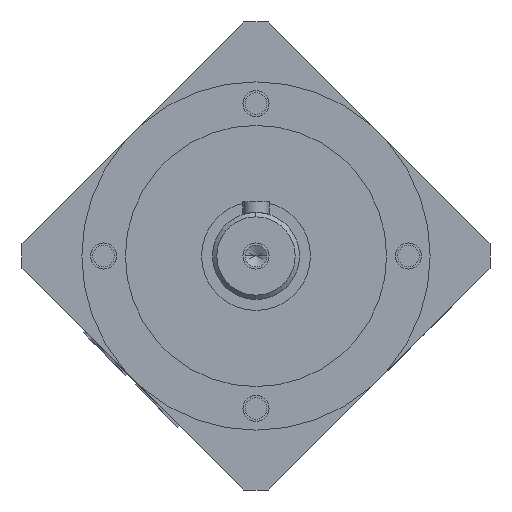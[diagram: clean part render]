
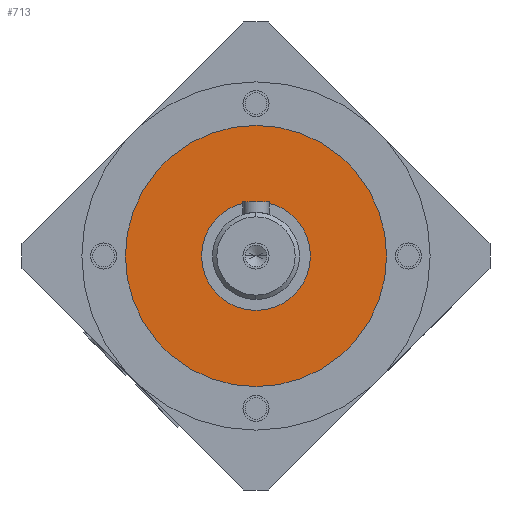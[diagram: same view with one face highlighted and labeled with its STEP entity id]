
A CAD part, front view. The second image highlights one B-rep face of the part: STEP entity #713.
In plain terms, the highlighted planar face has unit normal (0, -1, 0).
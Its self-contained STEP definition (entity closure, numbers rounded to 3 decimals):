
#151=CARTESIAN_POINT('',(0.,-3.,0.));
#152=DIRECTION('',(0.,1.,0.));
#153=DIRECTION('',(0.,0.,-1.));
#154=AXIS2_PLACEMENT_3D('',#151,#152,#153);
#160=CARTESIAN_POINT('',(0.,-3.,0.));
#161=DIRECTION('',(0.,-1.,0.));
#162=DIRECTION('',(0.,0.,-1.));
#163=AXIS2_PLACEMENT_3D('',#160,#161,#162);
#169=CARTESIAN_POINT('',(0.,-3.,0.));
#170=DIRECTION('',(0.,-1.,0.));
#171=DIRECTION('',(0.,0.,-1.));
#172=AXIS2_PLACEMENT_3D('',#169,#170,#171);
#174=CARTESIAN_POINT('',(0.,-3.,0.));
#175=DIRECTION('',(0.,1.,0.));
#176=DIRECTION('',(0.,0.,-1.));
#177=AXIS2_PLACEMENT_3D('',#174,#175,#176);
#384=CARTESIAN_POINT('',(0.,-3.,-12.5));
#386=VERTEX_POINT('',#384);
#392=CARTESIAN_POINT('',(0.,-3.,12.5));
#394=VERTEX_POINT('',#392);
#397=CARTESIAN_POINT('',(0.,-3.,-30.));
#398=CARTESIAN_POINT('',(0.,-3.,30.));
#399=VERTEX_POINT('',#397);
#400=VERTEX_POINT('',#398);
#698=CARTESIAN_POINT('',(0.,-3.,0.));
#699=DIRECTION('',(0.,1.,0.));
#700=DIRECTION('',(0.,0.,-1.));
#701=AXIS2_PLACEMENT_3D('',#698,#699,#700);
#702=PLANE('',#701);
#703=ORIENTED_EDGE('',*,*,#678,.T.);
#704=ORIENTED_EDGE('',*,*,#692,.F.);
#705=EDGE_LOOP('',(#703,#704));
#706=FACE_OUTER_BOUND('',#705,.F.);
#708=ORIENTED_EDGE('',*,*,#707,.T.);
#710=ORIENTED_EDGE('',*,*,#709,.F.);
#711=EDGE_LOOP('',(#708,#710));
#712=FACE_BOUND('',#711,.F.);
#155=CIRCLE('',#154,30.);
#164=CIRCLE('',#163,30.);
#173=CIRCLE('',#172,12.5);
#178=CIRCLE('',#177,12.5);
#678=EDGE_CURVE('',#399,#400,#155,.T.);
#692=EDGE_CURVE('',#399,#400,#164,.T.);
#707=EDGE_CURVE('',#386,#394,#173,.T.);
#709=EDGE_CURVE('',#386,#394,#178,.T.);
#713=ADVANCED_FACE('',(#706,#712),#702,.F.);
